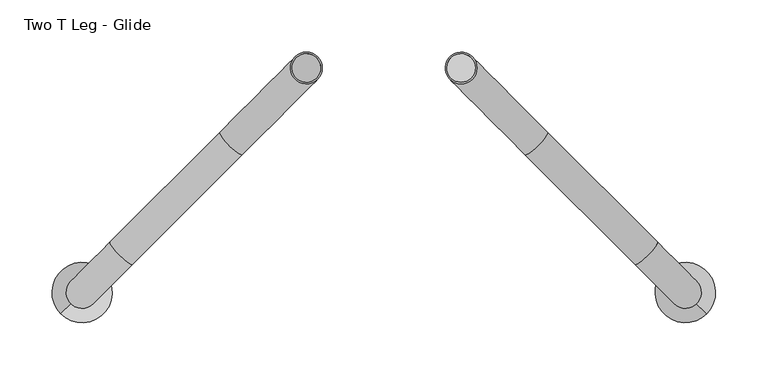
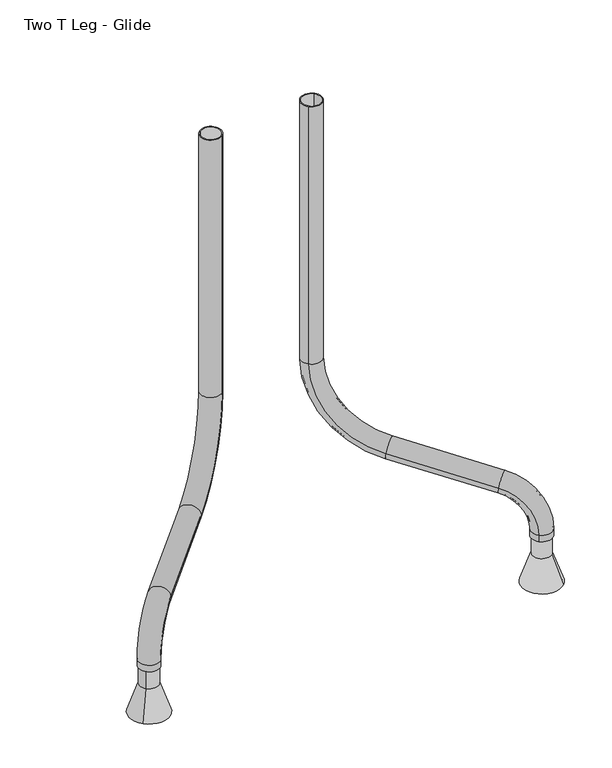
"""IFC4 building model written with IfcOpenShell, lengths in millimetres: furniture geometry, Steelcase - Groupwork - Table Leg - Two T : Two T Leg - Glide."""

from ifc_helpers import new_model, si_unit, point, frame, origin, place, context, project, spatial, polyline, circle_curve, ellipse_curve, trimmed, source, transform, mapped, element, save
from ifc_brep_helpers import plane_surface, cylinder_surface, revolved_surface, advanced_brep


def two_t_leg_glide_a9bf8ce5(model_context):
    return source(origin(), model_context, "Body", "AdvancedBrep", [
        advanced_brep(
        [(714.6388162, -235.8199917, 71.9077843), (695.2450965, -216.426272, 71.9077843), (704.9419564, -226.1231318, 71.9077843), (714.6388162, -235.8199917, 44.5081099), (695.2450965, -216.426272, 44.5081099), (725.3966144, -246.5777898, 0.0), (684.4872983, -205.6684738, 0.0), (704.9419564, -226.1231318, 0.0)],
        [
            (0, 1, circle_curve(frame((704.9419564, -226.1231318, 71.9077843), z_axis=(0.0, 0.0, 1.0), x_axis=(-0.7071067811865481, 0.707106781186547, 0.0)), 13.7134307)),
            (1, 2),
            (2, 0),
            (1, 0, circle_curve(frame((704.9419564, -226.1231318, 71.9077843), z_axis=(0.0, 0.0, 1.0), x_axis=(-0.7071067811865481, 0.707106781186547, 0.0)), 13.7134307)),
            (3, 4, circle_curve(frame((704.9419564, -226.1231318, 44.5081099), z_axis=(0.0, 0.0, 1.0), x_axis=(-0.7071067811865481, 0.707106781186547, 0.0)), 13.7134307)),
            (4, 1),
            (0, 3),
            (4, 3, circle_curve(frame((704.9419564, -226.1231318, 44.5081099), z_axis=(0.0, 0.0, 1.0), x_axis=(-0.7071067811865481, 0.707106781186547, 0.0)), 13.7134307)),
            (5, 6, circle_curve(frame((704.9419564, -226.1231318, 0.0), z_axis=(0.0, 0.0, 1.0), x_axis=(-0.7071067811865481, 0.707106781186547, 0.0)), 28.9272548)),
            (6, 4),
            (3, 5),
            (6, 5, circle_curve(frame((704.9419564, -226.1231318, 0.0), z_axis=(0.0, 0.0, 1.0), x_axis=(-0.7071067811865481, 0.707106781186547, 0.0)), 28.9272548)),
            (7, 6),
            (5, 7),
        ],
        [
            plane_surface(frame((704.9419564, -226.1231318, 71.9077843), z_axis=(0.0, 0.0, 1.0000000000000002), x_axis=(-0.7071067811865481, 0.707106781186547, 0.0))),
            cylinder_surface(frame((704.9419564, -226.1231318, 71.9077843), z_axis=(0.0, 0.0, -1.0), x_axis=(-0.7071067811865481, 0.707106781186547, 0.0)), 13.7134307),
            revolved_surface(polyline([(695.2450965, -216.426272, 44.5081099), (684.4872983, -205.6684738, 0.0)]), (704.9419564, -226.1231318, 71.9077843), (0.0, 0.0, -1.0)),
            plane_surface(frame((704.9419564, -226.1231318, 0.0), z_axis=(0.0, 0.0, -1.0000000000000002), x_axis=(-0.7071067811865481, 0.707106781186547, 0.0))),
        ],
        [
            (0, [[1, 2, 3]]),
            (0, [[4, -3, -2]]),
            (1, [[5, 6, -1, 7]]),
            (1, [[8, -7, -4, -6]]),
            (2, [[9, 10, -5, 11]]),
            (2, [[12, -11, -8, -10]]),
            (3, [[13, -9, 14]]),
            (3, [[-14, -12, -13]]),
        ],
    ),
        advanced_brep(
        [(115.9988328, -235.8199917, 71.9077843), (135.3925526, -216.426272, 71.9077843), (125.6956927, -226.1231318, 71.9077843), (115.9988328, -235.8199917, 44.5081099), (135.3925526, -216.426272, 44.5081099), (105.2410347, -246.5777898, 0.0), (146.1503507, -205.6684738, 0.0), (125.6956927, -226.1231318, 0.0)],
        [
            (0, 1, circle_curve(frame((125.6956927, -226.1231318, 71.9077843), z_axis=(0.0, 0.0, 1.0), x_axis=(0.707106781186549, 0.707106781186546, 0.0)), 13.7134307)),
            (1, 2),
            (2, 0),
            (1, 0, circle_curve(frame((125.6956927, -226.1231318, 71.9077843), z_axis=(0.0, 0.0, 1.0), x_axis=(0.707106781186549, 0.707106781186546, 0.0)), 13.7134307)),
            (3, 4, circle_curve(frame((125.6956927, -226.1231318, 44.5081099), z_axis=(0.0, 0.0, 1.0), x_axis=(0.707106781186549, 0.707106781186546, 0.0)), 13.7134307)),
            (4, 1),
            (0, 3),
            (4, 3, circle_curve(frame((125.6956927, -226.1231318, 44.5081099), z_axis=(0.0, 0.0, 1.0), x_axis=(0.707106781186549, 0.707106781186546, 0.0)), 13.7134307)),
            (5, 6, circle_curve(frame((125.6956927, -226.1231318, 0.0), z_axis=(0.0, 0.0, 1.0), x_axis=(0.707106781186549, 0.707106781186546, 0.0)), 28.9272548)),
            (6, 4),
            (3, 5),
            (6, 5, circle_curve(frame((125.6956927, -226.1231318, 0.0), z_axis=(0.0, 0.0, 1.0), x_axis=(0.707106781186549, 0.707106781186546, 0.0)), 28.9272548)),
            (7, 6),
            (5, 7),
        ],
        [
            plane_surface(frame((125.6956927, -226.1231318, 71.9077843), z_axis=(0.0, 0.0, 1.0), x_axis=(0.707106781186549, 0.707106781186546, 0.0))),
            cylinder_surface(frame((125.6956927, -226.1231318, 71.9077843), z_axis=(0.0, 0.0, -1.0), x_axis=(0.707106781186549, 0.707106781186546, 0.0)), 13.7134307),
            revolved_surface(polyline([(135.3925526, -216.426272, 44.5081099), (146.1503507, -205.6684738, 0.0)]), (125.6956927, -226.1231318, 71.9077843), (0.0, 0.0, -1.0)),
            plane_surface(frame((125.6956927, -226.1231318, 0.0), z_axis=(0.0, 0.0, -1.0), x_axis=(0.707106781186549, 0.707106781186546, 0.0))),
        ],
        [
            (0, [[1, 2, 3]]),
            (0, [[4, -3, -2]]),
            (1, [[5, 6, -1, 7]]),
            (1, [[8, -7, -4, -6]]),
            (2, [[9, 10, -5, 11]]),
            (2, [[12, -11, -8, -10]]),
            (3, [[13, -9, 14]]),
            (3, [[-14, -12, -13]]),
        ],
    ),
        advanced_brep(
        [(500.3714392, 0.0, 694.944), (478.8188245, -21.5526147, 694.944), (499.2919917, -1.0794475, 694.944), (479.898272, -20.4731672, 694.944), (500.3714392, 0.0, 293.6506074), (478.8188245, -21.5526147, 293.6506074), (499.2919917, -1.0794475, 293.6506074), (479.898272, -20.4731672, 293.6506074), (551.1243982, -93.8581883, 171.7872206), (572.6770128, -72.3055736, 171.7872206), (552.2038456, -92.7787408, 171.7872206), (571.5975654, -73.3850211, 171.7872206), (677.9858071, -177.6143679, 145.5269977), (656.4331924, -199.1669826, 145.5269977), (676.9063596, -178.6938153, 145.5269977), (657.5126399, -198.0875351, 145.5269977), (694.165649, -236.8994392, 81.9329382), (715.7182637, -215.3468245, 81.9329382), (695.2450965, -235.8199917, 81.9329382), (714.6388162, -216.426272, 81.9329382), (715.7182637, -215.3468245, 71.9077843), (694.165649, -236.8994392, 71.9077843), (714.6388162, -216.426272, 71.9077843), (695.2450965, -235.8199917, 71.9077843)],
        [
            (0, 1, circle_curve(frame((489.5951319, -10.7763073, 694.944), z_axis=(0.0, 0.0, 1.0), x_axis=(-0.707106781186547, -0.7071067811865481, 0.0)), 15.24)),
            (1, 0, circle_curve(frame((489.5951319, -10.7763073, 694.944), z_axis=(0.0, 0.0, 1.0), x_axis=(-0.707106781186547, -0.7071067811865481, 0.0)), 15.24)),
            (2, 3, circle_curve(frame((489.5951319, -10.7763073, 694.944), z_axis=(0.0, 0.0, -1.0), x_axis=(-0.707106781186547, -0.7071067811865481, 0.0)), 13.7134307)),
            (3, 2, circle_curve(frame((489.5951319, -10.7763073, 694.944), z_axis=(0.0, 0.0, -1.0), x_axis=(-0.707106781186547, -0.7071067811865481, 0.0)), 13.7134307)),
            (0, 4),
            (4, 5, circle_curve(frame((489.5951319, -10.7763073, 293.6506074), z_axis=(0.0, 0.0, 1.0), x_axis=(-0.707106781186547, -0.7071067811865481, 0.0)), 15.24)),
            (5, 1),
            (5, 4, circle_curve(frame((489.5951319, -10.7763073, 293.6506074), z_axis=(0.0, 0.0, 1.0), x_axis=(-0.707106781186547, -0.7071067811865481, 0.0)), 15.24)),
            (2, 6),
            (6, 7, circle_curve(frame((489.5951319, -10.7763073, 293.6506074), z_axis=(0.0, 0.0, -1.0), x_axis=(-0.707106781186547, -0.7071067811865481, 0.0)), 13.7134307)),
            (7, 3),
            (7, 6, circle_curve(frame((489.5951319, -10.7763073, 293.6506074), z_axis=(0.0, 0.0, -1.0), x_axis=(-0.707106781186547, -0.7071067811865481, 0.0)), 13.7134307)),
            (8, 5, circle_curve(frame((566.3185694, -109.0523596, 293.6506074), z_axis=(0.707106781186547, 0.7071067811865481, 0.0), x_axis=(-0.7071067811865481, 0.707106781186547, 0.0)), 123.7433259)),
            (4, 9, circle_curve(frame((587.8711841, -87.4997449, 293.6506074), z_axis=(-0.707106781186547, -0.7071067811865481, 0.0), x_axis=(-0.7071067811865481, 0.707106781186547, 0.0)), 123.7433259)),
            (9, 8, circle_curve(frame((561.9007055, -83.081881, 171.7872206), z_axis=(-0.696364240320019, 0.6963642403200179, 0.17364817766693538), x_axis=(-0.707106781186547, -0.7071067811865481, 0.0)), 15.24)),
            (8, 9, circle_curve(frame((561.9007055, -83.081881, 171.7872206), z_axis=(-0.696364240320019, 0.6963642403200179, 0.17364817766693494), x_axis=(-0.707106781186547, -0.7071067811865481, 0.0)), 15.24)),
            (10, 7, circle_curve(frame((567.3980169, -107.9729121, 293.6506074), z_axis=(0.707106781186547, 0.7071067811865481, 0.0), x_axis=(-0.7071067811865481, 0.707106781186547, 0.0)), 123.7433259)),
            (6, 11, circle_curve(frame((586.7917366, -88.5791923, 293.6506074), z_axis=(-0.707106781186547, -0.7071067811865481, 0.0), x_axis=(-0.7071067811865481, 0.707106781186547, 0.0)), 123.7433259)),
            (11, 10, circle_curve(frame((561.9007055, -83.081881, 171.7872206), z_axis=(0.696364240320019, -0.6963642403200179, -0.17364817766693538), x_axis=(-0.707106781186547, -0.7071067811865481, 0.0)), 13.7134307)),
            (10, 11, circle_curve(frame((561.9007055, -83.081881, 171.7872206), z_axis=(0.696364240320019, -0.6963642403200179, -0.17364817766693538), x_axis=(-0.707106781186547, -0.7071067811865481, 0.0)), 13.7134307)),
            (9, 12),
            (12, 13, circle_curve(frame((667.2094997, -188.3906752, 145.5269977), z_axis=(-0.6963642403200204, 0.696364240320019, 0.17364817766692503), x_axis=(-0.7071067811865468, -0.7071067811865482, 0.0)), 15.24)),
            (13, 8),
            (13, 12, circle_curve(frame((667.2094997, -188.3906752, 145.5269977), z_axis=(-0.6963642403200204, 0.696364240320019, 0.17364817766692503), x_axis=(-0.7071067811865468, -0.7071067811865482, 0.0)), 15.24)),
            (11, 14),
            (14, 15, circle_curve(frame((667.2094997, -188.3906752, 145.5269977), z_axis=(0.6963642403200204, -0.696364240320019, -0.17364817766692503), x_axis=(-0.7071067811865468, -0.7071067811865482, 0.0)), 13.7134307)),
            (15, 10),
            (15, 14, circle_curve(frame((667.2094997, -188.3906752, 145.5269977), z_axis=(0.6963642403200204, -0.696364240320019, -0.17364817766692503), x_axis=(-0.7071067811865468, -0.7071067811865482, 0.0)), 13.7134307)),
            (16, 13, circle_curve(frame((648.5041576, -191.2379478, 81.9329382), z_axis=(-0.707106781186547, -0.7071067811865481, 0.0), x_axis=(0.12278780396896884, -0.12278780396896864, 0.9848077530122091)), 64.5751004)),
            (12, 17, circle_curve(frame((670.0567723, -169.6853331, 81.9329382), z_axis=(0.707106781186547, 0.7071067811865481, 0.0), x_axis=(0.12278780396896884, -0.12278780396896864, 0.9848077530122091)), 64.5751004)),
            (17, 16, circle_curve(frame((704.9419564, -226.1231318, 81.9329382), z_axis=(0.0, 0.0, 1.0), x_axis=(-0.707106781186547, -0.7071067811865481, 0.0)), 15.24)),
            (16, 17, circle_curve(frame((704.9419564, -226.1231318, 81.9329382), z_axis=(0.0, 0.0, 1.0), x_axis=(-0.707106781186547, -0.7071067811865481, 0.0)), 15.24)),
            (18, 15, circle_curve(frame((649.5836051, -190.1585003, 81.9329382), z_axis=(-0.707106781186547, -0.7071067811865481, 0.0), x_axis=(0.12278780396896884, -0.12278780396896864, 0.9848077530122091)), 64.5751004)),
            (14, 19, circle_curve(frame((668.9773248, -170.7647806, 81.9329382), z_axis=(0.707106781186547, 0.7071067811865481, 0.0), x_axis=(0.12278780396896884, -0.12278780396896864, 0.9848077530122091)), 64.5751004)),
            (19, 18, circle_curve(frame((704.9419564, -226.1231318, 81.9329382), z_axis=(0.0, 0.0, -1.0), x_axis=(-0.707106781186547, -0.7071067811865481, 0.0)), 13.7134307)),
            (18, 19, circle_curve(frame((704.9419564, -226.1231318, 81.9329382), z_axis=(0.0, 0.0, -1.0), x_axis=(-0.707106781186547, -0.7071067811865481, 0.0)), 13.7134307)),
            (20, 21, circle_curve(frame((704.9419564, -226.1231318, 71.9077843), z_axis=(0.0, 0.0, -1.0), x_axis=(-0.707106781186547, -0.707106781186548, 0.0)), 15.24)),
            (21, 20, circle_curve(frame((704.9419564, -226.1231318, 71.9077843), z_axis=(0.0, 0.0, -1.0), x_axis=(-0.707106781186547, -0.707106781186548, 0.0)), 15.24)),
            (22, 23, circle_curve(frame((704.9419564, -226.1231318, 71.9077843), z_axis=(0.0, 0.0, 1.0), x_axis=(-0.707106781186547, -0.707106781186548, 0.0)), 13.7134307)),
            (23, 22, circle_curve(frame((704.9419564, -226.1231318, 71.9077843), z_axis=(0.0, 0.0, 1.0), x_axis=(-0.707106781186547, -0.707106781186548, 0.0)), 13.7134307)),
            (17, 20),
            (21, 16),
            (19, 22),
            (23, 18),
        ],
        [
            plane_surface(frame((500.7626997, -21.9438752, 694.944), z_axis=(0.0, 0.0, 1.0000000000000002), x_axis=(-0.707106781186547, -0.7071067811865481, 0.0))),
            cylinder_surface(frame((489.5951319, -10.7763073, 694.944), z_axis=(0.0, 0.0, 1.0000000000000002), x_axis=(-0.707106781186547, -0.7071067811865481, 0.0)), 15.24),
            revolved_surface(polyline([(479.89827205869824, -20.47316714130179, 293.6506073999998), (479.89827205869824, -20.47316714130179, 694.944)]), (489.5951319, -10.7763073, 694.944), (0.0, 0.0, -1.0000000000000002)),
            revolved_surface(trimmed(ellipse_curve(frame((489.5951319, -10.7763073, 293.6506074), z_axis=(0.0, 0.0, 1.0000000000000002), x_axis=(-0.707106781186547, -0.7071067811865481, 0.0)), 15.24, 15.24), [point((500.3714392, 0.0, 293.6506074))], [point((478.8188245, -21.5526147, 293.6506074))], True, "CARTESIAN"), (577.0948767, -98.2760522, 293.6506074), (-0.707106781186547, -0.7071067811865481, 0.0)),
            revolved_surface(trimmed(ellipse_curve(frame((489.5951319, -10.7763073, 293.6506074), z_axis=(0.0, 0.0, 1.0000000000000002), x_axis=(-0.707106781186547, -0.7071067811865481, 0.0)), 15.24, 15.24), [point((478.8188245, -21.5526147, 293.6506074))], [point((500.3714392, 0.0, 293.6506074))], True, "CARTESIAN"), (577.0948767, -98.2760522, 293.6506074), (-0.707106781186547, -0.7071067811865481, 0.0)),
            revolved_surface(trimmed(ellipse_curve(frame((489.5951319, -10.7763073, 293.6506074), z_axis=(0.0, 0.0, -1.0000000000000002), x_axis=(-0.707106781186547, -0.7071067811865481, 0.0)), 13.7134307, 13.7134307), [point((499.2919917, -1.0794475, 293.6506074))], [point((479.898272, -20.4731672, 293.6506074))], True, "CARTESIAN"), (577.0948767, -98.2760522, 293.6506074), (-0.707106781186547, -0.7071067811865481, 0.0)),
            revolved_surface(trimmed(ellipse_curve(frame((489.5951319, -10.7763073, 293.6506074), z_axis=(0.0, 0.0, -1.0000000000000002), x_axis=(-0.707106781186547, -0.7071067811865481, 0.0)), 13.7134307, 13.7134307), [point((479.898272, -20.4731672, 293.6506074))], [point((499.2919917, -1.0794475, 293.6506074))], True, "CARTESIAN"), (577.0948767, -98.2760522, 293.6506074), (-0.707106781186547, -0.7071067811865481, 0.0)),
            cylinder_surface(frame((561.9007055, -83.081881, 171.7872206), z_axis=(-0.6963642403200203, 0.6963642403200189, 0.173648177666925), x_axis=(-0.7071067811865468, -0.7071067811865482, 0.0)), 15.24),
            revolved_surface(polyline([(657.5126399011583, -198.08753508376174, 145.52699763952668), (552.2038456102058, -92.77874079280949, 171.78722061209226)]), (561.9007055, -83.081881, 171.7872206), (0.6963642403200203, -0.6963642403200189, -0.173648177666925)),
            revolved_surface(trimmed(ellipse_curve(frame((667.2094997, -188.3906752, 145.5269977), z_axis=(-0.6963642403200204, 0.6963642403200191, 0.17364817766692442), x_axis=(-0.7071067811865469, -0.7071067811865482, 0.0)), 15.24, 15.24), [point((677.9858071, -177.6143679, 145.5269977))], [point((656.4331924, -199.1669826, 145.5269977))], True, "CARTESIAN"), (659.280465, -180.4616404, 81.9329382), (0.707106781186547, 0.7071067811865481, 0.0)),
            revolved_surface(trimmed(ellipse_curve(frame((667.2094997, -188.3906752, 145.5269977), z_axis=(-0.6963642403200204, 0.6963642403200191, 0.17364817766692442), x_axis=(-0.7071067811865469, -0.7071067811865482, 0.0)), 15.24, 15.24), [point((656.4331924, -199.1669826, 145.5269977))], [point((677.9858071, -177.6143679, 145.5269977))], True, "CARTESIAN"), (659.280465, -180.4616404, 81.9329382), (0.707106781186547, 0.7071067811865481, 0.0)),
            revolved_surface(trimmed(ellipse_curve(frame((667.2094997, -188.3906752, 145.5269977), z_axis=(0.6963642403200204, -0.6963642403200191, -0.17364817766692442), x_axis=(-0.7071067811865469, -0.7071067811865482, 0.0)), 13.7134307, 13.7134307), [point((676.9063596, -178.6938153, 145.5269977))], [point((657.5126399, -198.0875351, 145.5269977))], True, "CARTESIAN"), (659.280465, -180.4616404, 81.9329382), (0.707106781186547, 0.7071067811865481, 0.0)),
            revolved_surface(trimmed(ellipse_curve(frame((667.2094997, -188.3906752, 145.5269977), z_axis=(0.6963642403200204, -0.6963642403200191, -0.17364817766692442), x_axis=(-0.7071067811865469, -0.7071067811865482, 0.0)), 13.7134307, 13.7134307), [point((657.5126399, -198.0875351, 145.5269977))], [point((676.9063596, -178.6938153, 145.5269977))], True, "CARTESIAN"), (659.280465, -180.4616404, 81.9329382), (0.707106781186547, 0.7071067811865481, 0.0)),
            plane_surface(frame((716.1095242, -237.2906997, 71.9077843), z_axis=(0.0, 0.0, -1.0), x_axis=(-0.707106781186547, -0.7071067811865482, 0.0))),
            cylinder_surface(frame((704.9419564, -226.1231318, 81.9329382), z_axis=(0.0, 0.0, 1.0), x_axis=(-0.707106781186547, -0.707106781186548, 0.0)), 15.24),
            revolved_surface(polyline([(695.2450965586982, -235.8199916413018, 71.9077843), (695.2450965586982, -235.8199916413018, 81.9329382)]), (704.9419564, -226.1231318, 81.9329382), (0.0, 0.0, -1.0)),
        ],
        [
            (0, [[1, 2], [3, 4]]),
            (1, [[-1, 5, 6, 7]]),
            (1, [[-2, -7, 8, -5]]),
            (2, [[-3, 9, 10, 11]]),
            (2, [[-4, -11, 12, -9]]),
            (3, [[13, -6, 14, 15]]),
            (4, [[-14, -8, -13, 16]]),
            (5, [[17, -10, 18, 19]]),
            (6, [[-18, -12, -17, 20]]),
            (7, [[-15, 21, 22, 23]]),
            (7, [[-16, -23, 24, -21]]),
            (8, [[-19, 25, 26, 27]]),
            (8, [[-20, -27, 28, -25]]),
            (9, [[29, -22, 30, 31]]),
            (10, [[-30, -24, -29, 32]]),
            (11, [[33, -26, 34, 35]]),
            (12, [[-34, -28, -33, 36]]),
            (13, [[37, 38], [39, 40]]),
            (14, [[-31, 41, -38, 42]]),
            (14, [[-32, -42, -37, -41]]),
            (15, [[-35, 43, -40, 44]]),
            (15, [[-36, -44, -39, -43]]),
        ],
    ),
        advanced_brep(
        [(351.8188245, -21.5526147, 694.944), (330.2662098, 0.0, 694.944), (350.739377, -20.4731672, 694.944), (331.3456573, -1.0794475, 694.944), (351.8188245, -21.5526147, 293.6506074), (330.2662098, 0.0, 293.6506074), (350.739377, -20.4731672, 293.6506074), (331.3456573, -1.0794475, 293.6506074), (257.9606362, -72.3055736, 171.7872206), (279.5132509, -93.8581883, 171.7872206), (259.0400837, -73.3850211, 171.7872206), (278.4338034, -92.7787408, 171.7872206), (174.2044567, -199.1669826, 145.5269977), (152.651842, -177.6143679, 145.5269977), (173.1250092, -198.0875351, 145.5269977), (153.7312895, -178.6938153, 145.5269977), (114.9193854, -215.3468245, 81.9329382), (136.472, -236.8994392, 81.9329382), (115.9988328, -216.426272, 81.9329382), (135.3925526, -235.8199917, 81.9329382), (136.472, -236.8994392, 71.9077843), (114.9193854, -215.3468245, 71.9077843), (135.3925526, -235.8199917, 71.9077843), (115.9988328, -216.426272, 71.9077843)],
        [
            (0, 1, circle_curve(frame((341.0425172, -10.7763073, 694.944), z_axis=(0.0, 0.0, 1.0), x_axis=(-0.707106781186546, 0.707106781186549, 0.0)), 15.24)),
            (1, 0, circle_curve(frame((341.0425172, -10.7763073, 694.944), z_axis=(0.0, 0.0, 1.0), x_axis=(-0.707106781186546, 0.707106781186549, 0.0)), 15.24)),
            (2, 3, circle_curve(frame((341.0425172, -10.7763073, 694.944), z_axis=(0.0, 0.0, -1.0), x_axis=(-0.707106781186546, 0.707106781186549, 0.0)), 13.7134307)),
            (3, 2, circle_curve(frame((341.0425172, -10.7763073, 694.944), z_axis=(0.0, 0.0, -1.0), x_axis=(-0.707106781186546, 0.707106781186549, 0.0)), 13.7134307)),
            (0, 4),
            (4, 5, circle_curve(frame((341.0425172, -10.7763073, 293.6506074), z_axis=(0.0, 0.0, 1.0), x_axis=(-0.707106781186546, 0.707106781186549, 0.0)), 15.24)),
            (5, 1),
            (5, 4, circle_curve(frame((341.0425172, -10.7763073, 293.6506074), z_axis=(0.0, 0.0, 1.0), x_axis=(-0.707106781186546, 0.707106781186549, 0.0)), 15.24)),
            (2, 6),
            (6, 7, circle_curve(frame((341.0425172, -10.7763073, 293.6506074), z_axis=(0.0, 0.0, -1.0), x_axis=(-0.707106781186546, 0.707106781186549, 0.0)), 13.7134307)),
            (7, 3),
            (7, 6, circle_curve(frame((341.0425172, -10.7763073, 293.6506074), z_axis=(0.0, 0.0, -1.0), x_axis=(-0.707106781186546, 0.707106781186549, 0.0)), 13.7134307)),
            (8, 5, circle_curve(frame((242.766465, -87.4997449, 293.6506074), z_axis=(0.707106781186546, -0.707106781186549, 0.0), x_axis=(0.707106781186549, 0.707106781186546, 0.0)), 123.7433259)),
            (4, 9, circle_curve(frame((264.3190797, -109.0523596, 293.6506074), z_axis=(-0.707106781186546, 0.707106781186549, 0.0), x_axis=(0.707106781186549, 0.707106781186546, 0.0)), 123.7433259)),
            (9, 8, circle_curve(frame((268.7369436, -83.081881, 171.7872206), z_axis=(0.6963642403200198, 0.6963642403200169, 0.17364817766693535), x_axis=(-0.707106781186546, 0.707106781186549, 0.0)), 15.24)),
            (8, 9, circle_curve(frame((268.7369436, -83.081881, 171.7872206), z_axis=(0.6963642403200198, 0.6963642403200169, 0.17364817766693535), x_axis=(-0.707106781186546, 0.707106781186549, 0.0)), 15.24)),
            (10, 7, circle_curve(frame((243.8459125, -88.5791923, 293.6506074), z_axis=(0.707106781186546, -0.707106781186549, 0.0), x_axis=(0.707106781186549, 0.707106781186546, 0.0)), 123.7433259)),
            (6, 11, circle_curve(frame((263.2396322, -107.9729121, 293.6506074), z_axis=(-0.707106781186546, 0.707106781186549, 0.0), x_axis=(0.707106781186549, 0.707106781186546, 0.0)), 123.7433259)),
            (11, 10, circle_curve(frame((268.7369436, -83.081881, 171.7872206), z_axis=(-0.6963642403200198, -0.6963642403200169, -0.17364817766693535), x_axis=(-0.707106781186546, 0.707106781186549, 0.0)), 13.7134307)),
            (10, 11, circle_curve(frame((268.7369436, -83.081881, 171.7872206), z_axis=(-0.6963642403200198, -0.6963642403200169, -0.17364817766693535), x_axis=(-0.707106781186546, 0.707106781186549, 0.0)), 13.7134307)),
            (9, 12),
            (12, 13, circle_curve(frame((163.4281493, -188.3906752, 145.5269977), z_axis=(0.6963642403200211, 0.6963642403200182, 0.17364817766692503), x_axis=(-0.7071067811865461, 0.707106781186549, 0.0)), 15.24)),
            (13, 8),
            (13, 12, circle_curve(frame((163.4281493, -188.3906752, 145.5269977), z_axis=(0.6963642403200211, 0.6963642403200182, 0.17364817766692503), x_axis=(-0.7071067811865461, 0.707106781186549, 0.0)), 15.24)),
            (11, 14),
            (14, 15, circle_curve(frame((163.4281493, -188.3906752, 145.5269977), z_axis=(-0.6963642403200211, -0.6963642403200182, -0.17364817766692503), x_axis=(-0.7071067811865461, 0.707106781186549, 0.0)), 13.7134307)),
            (15, 10),
            (15, 14, circle_curve(frame((163.4281493, -188.3906752, 145.5269977), z_axis=(-0.6963642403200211, -0.6963642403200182, -0.17364817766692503), x_axis=(-0.7071067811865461, 0.707106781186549, 0.0)), 13.7134307)),
            (16, 13, circle_curve(frame((160.5808767, -169.6853331, 81.9329382), z_axis=(-0.707106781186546, 0.707106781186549, 0.0), x_axis=(-0.12278780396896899, -0.12278780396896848, 0.9848077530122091)), 64.5751004)),
            (12, 17, circle_curve(frame((182.1334914, -191.2379478, 81.9329382), z_axis=(0.707106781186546, -0.707106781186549, 0.0), x_axis=(-0.12278780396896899, -0.12278780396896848, 0.9848077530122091)), 64.5751004)),
            (17, 16, circle_curve(frame((125.6956927, -226.1231318, 81.9329382), z_axis=(0.0, 0.0, 1.0000000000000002), x_axis=(-0.707106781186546, 0.707106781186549, 0.0)), 15.24)),
            (16, 17, circle_curve(frame((125.6956927, -226.1231318, 81.9329382), z_axis=(0.0, 0.0, 1.0000000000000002), x_axis=(-0.707106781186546, 0.707106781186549, 0.0)), 15.24)),
            (18, 15, circle_curve(frame((161.6603242, -170.7647806, 81.9329382), z_axis=(-0.707106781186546, 0.707106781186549, 0.0), x_axis=(-0.12278780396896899, -0.12278780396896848, 0.9848077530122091)), 64.5751004)),
            (14, 19, circle_curve(frame((181.054044, -190.1585003, 81.9329382), z_axis=(0.707106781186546, -0.707106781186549, 0.0), x_axis=(-0.12278780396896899, -0.12278780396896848, 0.9848077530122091)), 64.5751004)),
            (19, 18, circle_curve(frame((125.6956927, -226.1231318, 81.9329382), z_axis=(0.0, 0.0, -1.0), x_axis=(-0.707106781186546, 0.707106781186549, 0.0)), 13.7134307)),
            (18, 19, circle_curve(frame((125.6956927, -226.1231318, 81.9329382), z_axis=(0.0, 0.0, -1.0000000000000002), x_axis=(-0.707106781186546, 0.707106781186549, 0.0)), 13.7134307)),
            (20, 21, circle_curve(frame((125.6956927, -226.1231318, 71.9077843), z_axis=(0.0, 0.0, -1.0), x_axis=(-0.7071067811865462, 0.707106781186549, 0.0)), 15.24)),
            (21, 20, circle_curve(frame((125.6956927, -226.1231318, 71.9077843), z_axis=(0.0, 0.0, -1.0), x_axis=(-0.7071067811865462, 0.707106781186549, 0.0)), 15.24)),
            (22, 23, circle_curve(frame((125.6956927, -226.1231318, 71.9077843), z_axis=(0.0, 0.0, 1.0), x_axis=(-0.7071067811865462, 0.707106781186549, 0.0)), 13.7134307)),
            (23, 22, circle_curve(frame((125.6956927, -226.1231318, 71.9077843), z_axis=(0.0, 0.0, 1.0), x_axis=(-0.7071067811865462, 0.707106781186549, 0.0)), 13.7134307)),
            (17, 20),
            (21, 16),
            (19, 22),
            (23, 18),
        ],
        [
            plane_surface(frame((329.8749493, -21.9438752, 694.944), z_axis=(0.0, 0.0, 1.0), x_axis=(-0.707106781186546, 0.707106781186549, 0.0))),
            cylinder_surface(frame((341.0425172, -10.7763073, 694.944), z_axis=(0.0, 0.0, 1.0), x_axis=(-0.707106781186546, 0.707106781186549, 0.0)), 15.24),
            revolved_surface(polyline([(331.34565735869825, -1.079447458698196, 293.6506074), (331.34565735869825, -1.079447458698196, 694.944)]), (341.0425172, -10.7763073, 694.944), (0.0, 0.0, -1.0)),
            revolved_surface(trimmed(ellipse_curve(frame((341.0425172, -10.7763073, 293.6506074), z_axis=(0.0, 0.0, 1.0), x_axis=(-0.707106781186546, 0.707106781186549, 0.0)), 15.24, 15.24), [point((351.8188245, -21.5526147, 293.6506074))], [point((330.2662098, 0.0, 293.6506074))], True, "CARTESIAN"), (253.5427723, -98.2760522, 293.6506074), (-0.707106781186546, 0.707106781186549, 0.0)),
            revolved_surface(trimmed(ellipse_curve(frame((341.0425172, -10.7763073, 293.6506074), z_axis=(0.0, 0.0, 1.0), x_axis=(-0.707106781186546, 0.707106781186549, 0.0)), 15.24, 15.24), [point((330.2662098, 0.0, 293.6506074))], [point((351.8188245, -21.5526147, 293.6506074))], True, "CARTESIAN"), (253.5427723, -98.2760522, 293.6506074), (-0.707106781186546, 0.707106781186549, 0.0)),
            revolved_surface(trimmed(ellipse_curve(frame((341.0425172, -10.7763073, 293.6506074), z_axis=(0.0, 0.0, -1.0), x_axis=(-0.707106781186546, 0.707106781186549, 0.0)), 13.7134307, 13.7134307), [point((350.739377, -20.4731672, 293.6506074))], [point((331.3456573, -1.0794475, 293.6506074))], True, "CARTESIAN"), (253.5427723, -98.2760522, 293.6506074), (-0.707106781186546, 0.707106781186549, 0.0)),
            revolved_surface(trimmed(ellipse_curve(frame((341.0425172, -10.7763073, 293.6506074), z_axis=(0.0, 0.0, -1.0), x_axis=(-0.707106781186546, 0.707106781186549, 0.0)), 13.7134307, 13.7134307), [point((331.3456573, -1.0794475, 293.6506074))], [point((350.739377, -20.4731672, 293.6506074))], True, "CARTESIAN"), (253.5427723, -98.2760522, 293.6506074), (-0.707106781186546, 0.707106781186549, 0.0)),
            cylinder_surface(frame((268.7369436, -83.081881, 171.7872206), z_axis=(0.6963642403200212, 0.6963642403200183, 0.17364817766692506), x_axis=(-0.7071067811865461, 0.707106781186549, 0.0)), 15.24),
            revolved_surface(polyline([(153.7312895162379, -178.6938154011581, 145.52699763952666), (259.04008375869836, -73.3850211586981, 171.78722060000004)]), (268.7369436, -83.081881, 171.7872206), (-0.6963642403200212, -0.6963642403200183, -0.17364817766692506)),
            revolved_surface(trimmed(ellipse_curve(frame((163.4281493, -188.3906752, 145.5269977), z_axis=(0.6963642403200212, 0.6963642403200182, 0.17364817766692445), x_axis=(-0.707106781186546, 0.707106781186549, 0.0)), 15.24, 15.24), [point((174.2044567, -199.1669826, 145.5269977))], [point((152.651842, -177.6143679, 145.5269977))], True, "CARTESIAN"), (171.3571841, -180.4616404, 81.9329382), (0.707106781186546, -0.707106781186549, 0.0)),
            revolved_surface(trimmed(ellipse_curve(frame((163.4281493, -188.3906752, 145.5269977), z_axis=(0.6963642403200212, 0.6963642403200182, 0.17364817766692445), x_axis=(-0.707106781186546, 0.707106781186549, 0.0)), 15.24, 15.24), [point((152.651842, -177.6143679, 145.5269977))], [point((174.2044567, -199.1669826, 145.5269977))], True, "CARTESIAN"), (171.3571841, -180.4616404, 81.9329382), (0.707106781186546, -0.707106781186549, 0.0)),
            revolved_surface(trimmed(ellipse_curve(frame((163.4281493, -188.3906752, 145.5269977), z_axis=(-0.6963642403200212, -0.6963642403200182, -0.17364817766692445), x_axis=(-0.707106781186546, 0.707106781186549, 0.0)), 13.7134307, 13.7134307), [point((173.1250092, -198.0875351, 145.5269977))], [point((153.7312895, -178.6938153, 145.5269977))], True, "CARTESIAN"), (171.3571841, -180.4616404, 81.9329382), (0.707106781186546, -0.707106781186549, 0.0)),
            revolved_surface(trimmed(ellipse_curve(frame((163.4281493, -188.3906752, 145.5269977), z_axis=(-0.6963642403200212, -0.6963642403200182, -0.17364817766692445), x_axis=(-0.707106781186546, 0.707106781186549, 0.0)), 13.7134307, 13.7134307), [point((153.7312895, -178.6938153, 145.5269977))], [point((173.1250092, -198.0875351, 145.5269977))], True, "CARTESIAN"), (171.3571841, -180.4616404, 81.9329382), (0.707106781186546, -0.707106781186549, 0.0)),
            plane_surface(frame((114.5281249, -237.2906997, 71.9077843), z_axis=(0.0, 0.0, -1.0), x_axis=(-0.707106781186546, 0.7071067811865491, 0.0))),
            cylinder_surface(frame((125.6956927, -226.1231318, 81.9329382), z_axis=(0.0, 0.0, 1.0000000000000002), x_axis=(-0.7071067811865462, 0.707106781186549, 0.0)), 15.24),
            revolved_surface(polyline([(115.99883285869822, -216.4262719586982, 71.9077843), (115.99883285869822, -216.4262719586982, 81.9329382)]), (125.6956927, -226.1231318, 81.9329382), (0.0, 0.0, -1.0000000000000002)),
        ],
        [
            (0, [[1, 2], [3, 4]]),
            (1, [[-1, 5, 6, 7]]),
            (1, [[-2, -7, 8, -5]]),
            (2, [[-3, 9, 10, 11]]),
            (2, [[-4, -11, 12, -9]]),
            (3, [[13, -6, 14, 15]]),
            (4, [[-14, -8, -13, 16]]),
            (5, [[17, -10, 18, 19]]),
            (6, [[-18, -12, -17, 20]]),
            (7, [[-15, 21, 22, 23]]),
            (7, [[-16, -23, 24, -21]]),
            (8, [[-19, 25, 26, 27]]),
            (8, [[-20, -27, 28, -25]]),
            (9, [[29, -22, 30, 31]]),
            (10, [[-30, -24, -29, 32]]),
            (11, [[33, -26, 34, 35]]),
            (12, [[-34, -28, -33, 36]]),
            (13, [[37, 38], [39, 40]]),
            (14, [[-31, 41, -38, 42]]),
            (14, [[-32, -42, -37, -41]]),
            (15, [[-35, 43, -40, 44]]),
            (15, [[-36, -44, -39, -43]]),
        ],
    ),
    ])


if __name__ == "__main__":
    model = new_model("IFC4")
    model_context = context("Model", 3, world=origin())
    ifc_project = project(units=[si_unit("LENGTHUNIT", "METRE", prefix="MILLI")], contexts=[model_context])
    site = spatial("IfcSite", under=ifc_project)
    building = spatial("IfcBuilding", under=site)
    placement = place(None, origin())
    two_t_leg_glide_shape = two_t_leg_glide_a9bf8ce5(model_context)
    element("IfcFurniture", 1, ObjectType="Steelcase - Groupwork - Table Leg - Two T : Two T Leg - Glide", at=placement, inside=building, context=model_context, shape_type="MappedRepresentation", body=[
        mapped(two_t_leg_glide_shape, transform((0.0, 0.0, 0.0), x_axis=(1.0, 0.0, 0.0), y_axis=(0.0, 1.0, 0.0), z_axis=(0.0, 0.0, 1.0))),
    ])
    save(model, "model.ifc")
